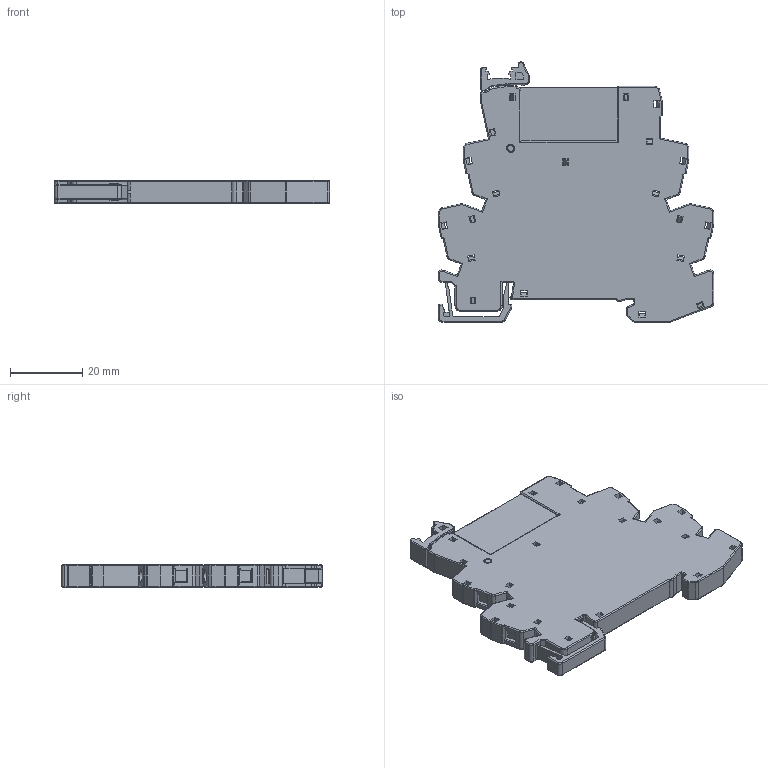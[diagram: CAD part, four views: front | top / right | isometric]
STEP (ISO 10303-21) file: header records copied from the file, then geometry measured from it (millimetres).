
FILE_DESCRIPTION (( 'STEP AP203' ), '1' );
FILE_NAME ('SNB05-E+RNC 俋倛.STEP', '2023-02-01T01:56:12', ( '' ), ( '' ), 'SwSTEP 2.0', 'SolidWorks 2018', '' );
FILE_SCHEMA (( 'CONFIG_CONTROL_DESIGN' ));
Length unit declared in the file: millimetre
Products named in the file (1): SNB05-E+RNC 俋倛
Bounding box: 76 x 71.86 x 6.2 mm (x, y, z)
Volume: 22575.4 mm3; surface area: 13637.4 mm2
Topology: 2 solids, 2 shells, 1525 faces, 3934 edges, 2443 vertices
Faces by surface type: plane 1000, cylinder 340, torus 113, sphere 64, bspline 8
Entity records: 47127 total; most frequent: CARTESIAN_POINT 10031, ORIENTED_EDGE 7792, DIRECTION 7512, EDGE_CURVE 3896, LINE 3028, VECTOR 3028, VERTEX_POINT 2431, AXIS2_PLACEMENT_3D 2242
